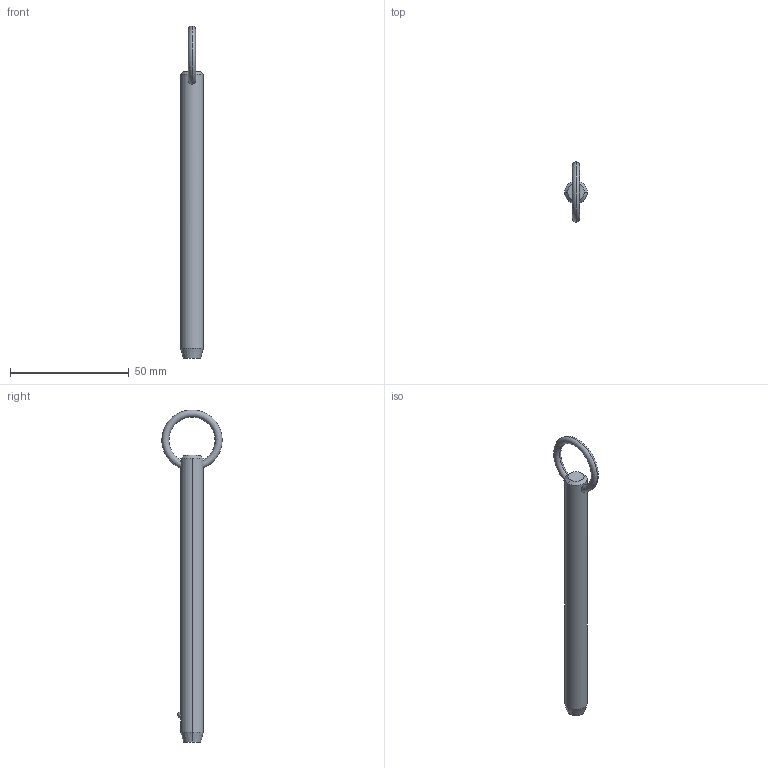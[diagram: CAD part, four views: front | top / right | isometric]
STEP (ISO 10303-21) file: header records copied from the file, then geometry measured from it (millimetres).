
FILE_DESCRIPTION (( 'STEP AP203' ), '1' );
FILE_NAME ('P1250.037-400.step', '2019-07-29T20:09:05', ( '' ), ( '' ), 'SwSTEP 2.0', 'SolidWorks 2017', '' );
FILE_SCHEMA (( 'CONFIG_CONTROL_DESIGN' ));
Length unit declared in the file: millimetre
Products named in the file (1): P1250.037-400
Bounding box: 9.52 x 25.39 x 139.7 mm (x, y, z)
Volume: 8939.1 mm3; surface area: 4250.6 mm2
Topology: 1 solids, 1 shells, 12 faces, 28 edges, 17 vertices
Faces by surface type: cone 4, torus 2, sphere 2, cylinder 2, plane 2
Entity records: 523 total; most frequent: CARTESIAN_POINT 190, DIRECTION 56, ORIENTED_EDGE 48, AXIS2_PLACEMENT_3D 25, EDGE_CURVE 24, EDGE_LOOP 15, VERTEX_POINT 15, FACE_OUTER_BOUND 12
